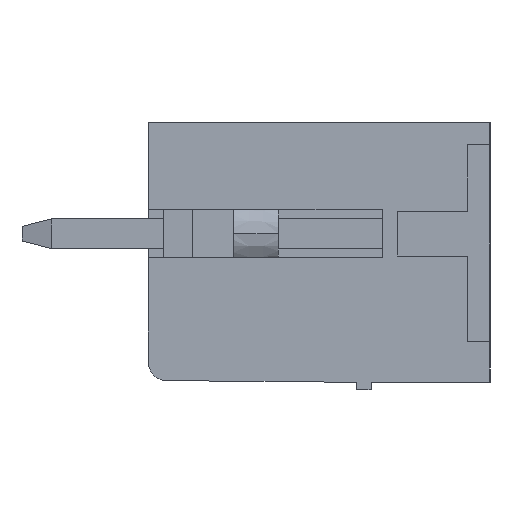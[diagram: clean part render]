
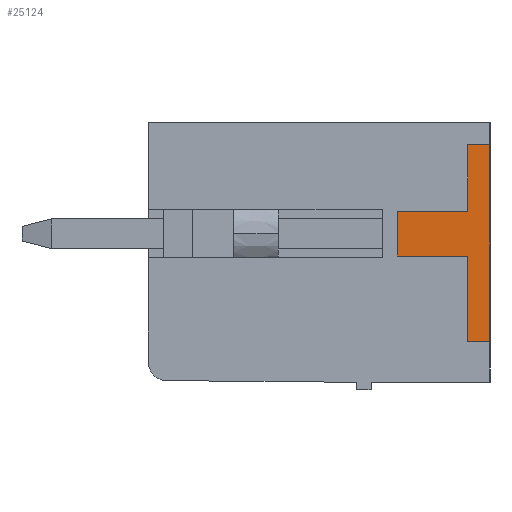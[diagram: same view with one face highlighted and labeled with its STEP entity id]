
A CAD part, left-side view. The second image highlights one B-rep face of the part: STEP entity #25124.
In plain terms, the highlighted planar face has unit normal (-1, 0, 0).
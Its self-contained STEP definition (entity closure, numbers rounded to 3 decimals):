
#156 = PLANE('',#157);
#157 = AXIS2_PLACEMENT_3D('',#158,#159,#160);
#158 = CARTESIAN_POINT('',(0.,0.,7.));
#159 = DIRECTION('',(0.,-1.,0.));
#160 = DIRECTION('',(0.,0.,-1.));
#184 = PLANE('',#185);
#185 = AXIS2_PLACEMENT_3D('',#186,#187,#188);
#186 = CARTESIAN_POINT('',(0.,0.,6.4));
#187 = DIRECTION('',(0.,0.,1.));
#188 = DIRECTION('',(0.,1.,0.));
#212 = PLANE('',#213);
#213 = AXIS2_PLACEMENT_3D('',#214,#215,#216);
#214 = CARTESIAN_POINT('',(0.,0.6,6.4));
#215 = DIRECTION('',(0.,1.,0.));
#216 = DIRECTION('',(0.,0.,-1.));
#240 = PLANE('',#241);
#241 = AXIS2_PLACEMENT_3D('',#242,#243,#244);
#242 = CARTESIAN_POINT('',(0.,0.6,4.6));
#243 = DIRECTION('',(0.,0.,1.));
#244 = DIRECTION('',(0.,1.,0.));
#268 = PLANE('',#269);
#269 = AXIS2_PLACEMENT_3D('',#270,#271,#272);
#270 = CARTESIAN_POINT('',(0.,2.5,4.6));
#271 = DIRECTION('',(0.,1.,0.));
#272 = DIRECTION('',(0.,0.,-1.));
#296 = PLANE('',#297);
#297 = AXIS2_PLACEMENT_3D('',#298,#299,#300);
#298 = CARTESIAN_POINT('',(0.,2.5,3.4));
#299 = DIRECTION('',(0.,0.,-1.));
#300 = DIRECTION('',(0.,-1.,0.));
#324 = PLANE('',#325);
#325 = AXIS2_PLACEMENT_3D('',#326,#327,#328);
#326 = CARTESIAN_POINT('',(0.,0.6,3.4));
#327 = DIRECTION('',(0.,1.,0.));
#328 = DIRECTION('',(0.,0.,-1.));
#352 = PLANE('',#353);
#353 = AXIS2_PLACEMENT_3D('',#354,#355,#356);
#354 = CARTESIAN_POINT('',(0.,0.6,1.1));
#355 = DIRECTION('',(0.,0.,-1.));
#356 = DIRECTION('',(0.,-1.,0.));
#6590 = VERTEX_POINT('',#6591);
#6591 = CARTESIAN_POINT('',(-0.2,0.,1.1));
#6612 = EDGE_CURVE('',#6590,#6613,#6615,.T.);
#6613 = VERTEX_POINT('',#6614);
#6614 = CARTESIAN_POINT('',(-0.2,0.,6.4));
#6615 = SURFACE_CURVE('',#6616,(#6620,#6627),.PCURVE_S1.);
#6616 = LINE('',#6617,#6618);
#6617 = CARTESIAN_POINT('',(-0.2,0.,1.1));
#6618 = VECTOR('',#6619,1.);
#6619 = DIRECTION('',(0.,0.,1.));
#6620 = PCURVE('',#156,#6621);
#6621 = DEFINITIONAL_REPRESENTATION('',(#6622),#6626);
#6622 = LINE('',#6623,#6624);
#6623 = CARTESIAN_POINT('',(5.9,-0.2));
#6624 = VECTOR('',#6625,1.);
#6625 = DIRECTION('',(-1.,0.));
#6626 = ( GEOMETRIC_REPRESENTATION_CONTEXT(2) 
PARAMETRIC_REPRESENTATION_CONTEXT() REPRESENTATION_CONTEXT('2D SPACE',''
  ) );
#6627 = PCURVE('',#6628,#6633);
#6628 = PLANE('',#6629);
#6629 = AXIS2_PLACEMENT_3D('',#6630,#6631,#6632);
#6630 = CARTESIAN_POINT('',(-0.2,0.,0.));
#6631 = DIRECTION('',(-1.,0.,0.));
#6632 = DIRECTION('',(0.,0.,1.));
#6633 = DEFINITIONAL_REPRESENTATION('',(#6634),#6638);
#6634 = LINE('',#6635,#6636);
#6635 = CARTESIAN_POINT('',(1.1,0.));
#6636 = VECTOR('',#6637,1.);
#6637 = DIRECTION('',(1.,0.));
#6638 = ( GEOMETRIC_REPRESENTATION_CONTEXT(2) 
PARAMETRIC_REPRESENTATION_CONTEXT() REPRESENTATION_CONTEXT('2D SPACE',''
  ) );
#24809 = VERTEX_POINT('',#24810);
#24810 = CARTESIAN_POINT('',(-0.2,0.6,1.1));
#24831 = EDGE_CURVE('',#24809,#6590,#24832,.T.);
#24832 = SURFACE_CURVE('',#24833,(#24837,#24844),.PCURVE_S1.);
#24833 = LINE('',#24834,#24835);
#24834 = CARTESIAN_POINT('',(-0.2,0.6,1.1));
#24835 = VECTOR('',#24836,1.);
#24836 = DIRECTION('',(0.,-1.,0.));
#24837 = PCURVE('',#352,#24838);
#24838 = DEFINITIONAL_REPRESENTATION('',(#24839),#24843);
#24839 = LINE('',#24840,#24841);
#24840 = CARTESIAN_POINT('',(0.,0.2));
#24841 = VECTOR('',#24842,1.);
#24842 = DIRECTION('',(1.,0.));
#24843 = ( GEOMETRIC_REPRESENTATION_CONTEXT(2) 
PARAMETRIC_REPRESENTATION_CONTEXT() REPRESENTATION_CONTEXT('2D SPACE',''
  ) );
#24844 = PCURVE('',#6628,#24845);
#24845 = DEFINITIONAL_REPRESENTATION('',(#24846),#24850);
#24846 = LINE('',#24847,#24848);
#24847 = CARTESIAN_POINT('',(1.1,0.6));
#24848 = VECTOR('',#24849,1.);
#24849 = DIRECTION('',(0.,-1.));
#24850 = ( GEOMETRIC_REPRESENTATION_CONTEXT(2) 
PARAMETRIC_REPRESENTATION_CONTEXT() REPRESENTATION_CONTEXT('2D SPACE',''
  ) );
#24858 = VERTEX_POINT('',#24859);
#24859 = CARTESIAN_POINT('',(-0.2,0.6,3.4));
#24880 = EDGE_CURVE('',#24858,#24809,#24881,.T.);
#24881 = SURFACE_CURVE('',#24882,(#24886,#24893),.PCURVE_S1.);
#24882 = LINE('',#24883,#24884);
#24883 = CARTESIAN_POINT('',(-0.2,0.6,3.4));
#24884 = VECTOR('',#24885,1.);
#24885 = DIRECTION('',(0.,0.,-1.));
#24886 = PCURVE('',#324,#24887);
#24887 = DEFINITIONAL_REPRESENTATION('',(#24888),#24892);
#24888 = LINE('',#24889,#24890);
#24889 = CARTESIAN_POINT('',(0.,0.2));
#24890 = VECTOR('',#24891,1.);
#24891 = DIRECTION('',(1.,0.));
#24892 = ( GEOMETRIC_REPRESENTATION_CONTEXT(2) 
PARAMETRIC_REPRESENTATION_CONTEXT() REPRESENTATION_CONTEXT('2D SPACE',''
  ) );
#24893 = PCURVE('',#6628,#24894);
#24894 = DEFINITIONAL_REPRESENTATION('',(#24895),#24899);
#24895 = LINE('',#24896,#24897);
#24896 = CARTESIAN_POINT('',(3.4,0.6));
#24897 = VECTOR('',#24898,1.);
#24898 = DIRECTION('',(-1.,0.));
#24899 = ( GEOMETRIC_REPRESENTATION_CONTEXT(2) 
PARAMETRIC_REPRESENTATION_CONTEXT() REPRESENTATION_CONTEXT('2D SPACE',''
  ) );
#24907 = VERTEX_POINT('',#24908);
#24908 = CARTESIAN_POINT('',(-0.2,2.5,3.4));
#24929 = EDGE_CURVE('',#24907,#24858,#24930,.T.);
#24930 = SURFACE_CURVE('',#24931,(#24935,#24942),.PCURVE_S1.);
#24931 = LINE('',#24932,#24933);
#24932 = CARTESIAN_POINT('',(-0.2,2.5,3.4));
#24933 = VECTOR('',#24934,1.);
#24934 = DIRECTION('',(0.,-1.,0.));
#24935 = PCURVE('',#296,#24936);
#24936 = DEFINITIONAL_REPRESENTATION('',(#24937),#24941);
#24937 = LINE('',#24938,#24939);
#24938 = CARTESIAN_POINT('',(0.,0.2));
#24939 = VECTOR('',#24940,1.);
#24940 = DIRECTION('',(1.,0.));
#24941 = ( GEOMETRIC_REPRESENTATION_CONTEXT(2) 
PARAMETRIC_REPRESENTATION_CONTEXT() REPRESENTATION_CONTEXT('2D SPACE',''
  ) );
#24942 = PCURVE('',#6628,#24943);
#24943 = DEFINITIONAL_REPRESENTATION('',(#24944),#24948);
#24944 = LINE('',#24945,#24946);
#24945 = CARTESIAN_POINT('',(3.4,2.5));
#24946 = VECTOR('',#24947,1.);
#24947 = DIRECTION('',(0.,-1.));
#24948 = ( GEOMETRIC_REPRESENTATION_CONTEXT(2) 
PARAMETRIC_REPRESENTATION_CONTEXT() REPRESENTATION_CONTEXT('2D SPACE',''
  ) );
#24956 = VERTEX_POINT('',#24957);
#24957 = CARTESIAN_POINT('',(-0.2,2.5,4.6));
#24978 = EDGE_CURVE('',#24956,#24907,#24979,.T.);
#24979 = SURFACE_CURVE('',#24980,(#24984,#24991),.PCURVE_S1.);
#24980 = LINE('',#24981,#24982);
#24981 = CARTESIAN_POINT('',(-0.2,2.5,4.6));
#24982 = VECTOR('',#24983,1.);
#24983 = DIRECTION('',(0.,0.,-1.));
#24984 = PCURVE('',#268,#24985);
#24985 = DEFINITIONAL_REPRESENTATION('',(#24986),#24990);
#24986 = LINE('',#24987,#24988);
#24987 = CARTESIAN_POINT('',(0.,0.2));
#24988 = VECTOR('',#24989,1.);
#24989 = DIRECTION('',(1.,0.));
#24990 = ( GEOMETRIC_REPRESENTATION_CONTEXT(2) 
PARAMETRIC_REPRESENTATION_CONTEXT() REPRESENTATION_CONTEXT('2D SPACE',''
  ) );
#24991 = PCURVE('',#6628,#24992);
#24992 = DEFINITIONAL_REPRESENTATION('',(#24993),#24997);
#24993 = LINE('',#24994,#24995);
#24994 = CARTESIAN_POINT('',(4.6,2.5));
#24995 = VECTOR('',#24996,1.);
#24996 = DIRECTION('',(-1.,0.));
#24997 = ( GEOMETRIC_REPRESENTATION_CONTEXT(2) 
PARAMETRIC_REPRESENTATION_CONTEXT() REPRESENTATION_CONTEXT('2D SPACE',''
  ) );
#25005 = VERTEX_POINT('',#25006);
#25006 = CARTESIAN_POINT('',(-0.2,0.6,4.6));
#25027 = EDGE_CURVE('',#25005,#24956,#25028,.T.);
#25028 = SURFACE_CURVE('',#25029,(#25033,#25040),.PCURVE_S1.);
#25029 = LINE('',#25030,#25031);
#25030 = CARTESIAN_POINT('',(-0.2,0.6,4.6));
#25031 = VECTOR('',#25032,1.);
#25032 = DIRECTION('',(0.,1.,0.));
#25033 = PCURVE('',#240,#25034);
#25034 = DEFINITIONAL_REPRESENTATION('',(#25035),#25039);
#25035 = LINE('',#25036,#25037);
#25036 = CARTESIAN_POINT('',(0.,0.2));
#25037 = VECTOR('',#25038,1.);
#25038 = DIRECTION('',(1.,0.));
#25039 = ( GEOMETRIC_REPRESENTATION_CONTEXT(2) 
PARAMETRIC_REPRESENTATION_CONTEXT() REPRESENTATION_CONTEXT('2D SPACE',''
  ) );
#25040 = PCURVE('',#6628,#25041);
#25041 = DEFINITIONAL_REPRESENTATION('',(#25042),#25046);
#25042 = LINE('',#25043,#25044);
#25043 = CARTESIAN_POINT('',(4.6,0.6));
#25044 = VECTOR('',#25045,1.);
#25045 = DIRECTION('',(0.,1.));
#25046 = ( GEOMETRIC_REPRESENTATION_CONTEXT(2) 
PARAMETRIC_REPRESENTATION_CONTEXT() REPRESENTATION_CONTEXT('2D SPACE',''
  ) );
#25054 = VERTEX_POINT('',#25055);
#25055 = CARTESIAN_POINT('',(-0.2,0.6,6.4));
#25076 = EDGE_CURVE('',#25054,#25005,#25077,.T.);
#25077 = SURFACE_CURVE('',#25078,(#25082,#25089),.PCURVE_S1.);
#25078 = LINE('',#25079,#25080);
#25079 = CARTESIAN_POINT('',(-0.2,0.6,6.4));
#25080 = VECTOR('',#25081,1.);
#25081 = DIRECTION('',(0.,0.,-1.));
#25082 = PCURVE('',#212,#25083);
#25083 = DEFINITIONAL_REPRESENTATION('',(#25084),#25088);
#25084 = LINE('',#25085,#25086);
#25085 = CARTESIAN_POINT('',(0.,0.2));
#25086 = VECTOR('',#25087,1.);
#25087 = DIRECTION('',(1.,0.));
#25088 = ( GEOMETRIC_REPRESENTATION_CONTEXT(2) 
PARAMETRIC_REPRESENTATION_CONTEXT() REPRESENTATION_CONTEXT('2D SPACE',''
  ) );
#25089 = PCURVE('',#6628,#25090);
#25090 = DEFINITIONAL_REPRESENTATION('',(#25091),#25095);
#25091 = LINE('',#25092,#25093);
#25092 = CARTESIAN_POINT('',(6.4,0.6));
#25093 = VECTOR('',#25094,1.);
#25094 = DIRECTION('',(-1.,0.));
#25095 = ( GEOMETRIC_REPRESENTATION_CONTEXT(2) 
PARAMETRIC_REPRESENTATION_CONTEXT() REPRESENTATION_CONTEXT('2D SPACE',''
  ) );
#25103 = EDGE_CURVE('',#6613,#25054,#25104,.T.);
#25104 = SURFACE_CURVE('',#25105,(#25109,#25116),.PCURVE_S1.);
#25105 = LINE('',#25106,#25107);
#25106 = CARTESIAN_POINT('',(-0.2,0.,6.4));
#25107 = VECTOR('',#25108,1.);
#25108 = DIRECTION('',(0.,1.,0.));
#25109 = PCURVE('',#184,#25110);
#25110 = DEFINITIONAL_REPRESENTATION('',(#25111),#25115);
#25111 = LINE('',#25112,#25113);
#25112 = CARTESIAN_POINT('',(0.,0.2));
#25113 = VECTOR('',#25114,1.);
#25114 = DIRECTION('',(1.,0.));
#25115 = ( GEOMETRIC_REPRESENTATION_CONTEXT(2) 
PARAMETRIC_REPRESENTATION_CONTEXT() REPRESENTATION_CONTEXT('2D SPACE',''
  ) );
#25116 = PCURVE('',#6628,#25117);
#25117 = DEFINITIONAL_REPRESENTATION('',(#25118),#25122);
#25118 = LINE('',#25119,#25120);
#25119 = CARTESIAN_POINT('',(6.4,0.));
#25120 = VECTOR('',#25121,1.);
#25121 = DIRECTION('',(0.,1.));
#25122 = ( GEOMETRIC_REPRESENTATION_CONTEXT(2) 
PARAMETRIC_REPRESENTATION_CONTEXT() REPRESENTATION_CONTEXT('2D SPACE',''
  ) );
#25124 = ADVANCED_FACE('',(#25125),#6628,.T.);
#25125 = FACE_BOUND('',#25126,.F.);
#25126 = EDGE_LOOP('',(#25127,#25128,#25129,#25130,#25131,#25132,#25133,
    #25134));
#25127 = ORIENTED_EDGE('',*,*,#25103,.F.);
#25128 = ORIENTED_EDGE('',*,*,#6612,.F.);
#25129 = ORIENTED_EDGE('',*,*,#24831,.F.);
#25130 = ORIENTED_EDGE('',*,*,#24880,.F.);
#25131 = ORIENTED_EDGE('',*,*,#24929,.F.);
#25132 = ORIENTED_EDGE('',*,*,#24978,.F.);
#25133 = ORIENTED_EDGE('',*,*,#25027,.F.);
#25134 = ORIENTED_EDGE('',*,*,#25076,.F.);
